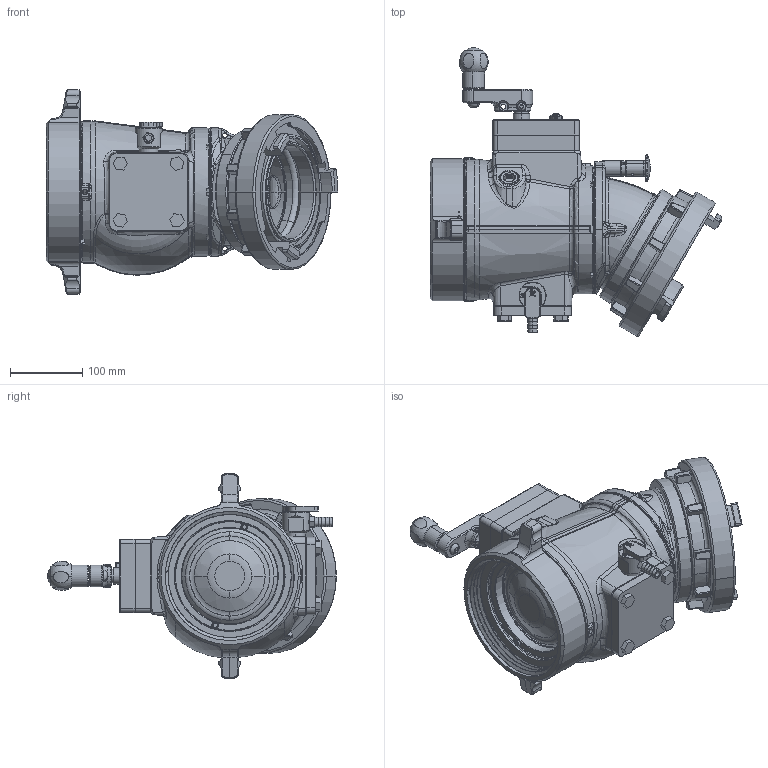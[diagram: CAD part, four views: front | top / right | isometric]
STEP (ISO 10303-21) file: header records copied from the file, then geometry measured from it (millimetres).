
FILE_DESCRIPTION (( 'STEP AP203' ), '1' );
FILE_NAME ('AZ1SX-NX-PS.step', '2014-05-13T19:29:17', ( 'user' ), ( '' ), 'SwSTEP 2.0', 'SolidWorks 2012', '' );
FILE_SCHEMA (( 'CONFIG_CONTROL_DESIGN' ));
Length unit declared in the file: inch
Products named in the file (1): AZ1SX-NX-PS
Bounding box: 405.11 x 400.79 x 283.46 mm (x, y, z)
Surface area: 593799.9 mm2 (no closed solid volume)
Topology: 0 solids, 56 shells, 1369 faces, 4138 edges, 2731 vertices
Faces by surface type: plane 386, cylinder 333, cone 230, bspline 228, torus 151, sphere 41
Entity records: 63652 total; most frequent: CARTESIAN_POINT 29134, ORIENTED_EDGE 7169, DIRECTION 6780, EDGE_CURVE 4109, VERTEX_POINT 2729, AXIS2_PLACEMENT_3D 2644, CIRCLE 1502, VECTOR 1492
